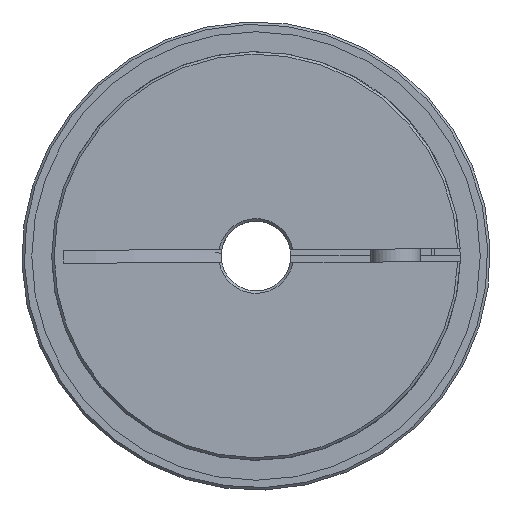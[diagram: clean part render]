
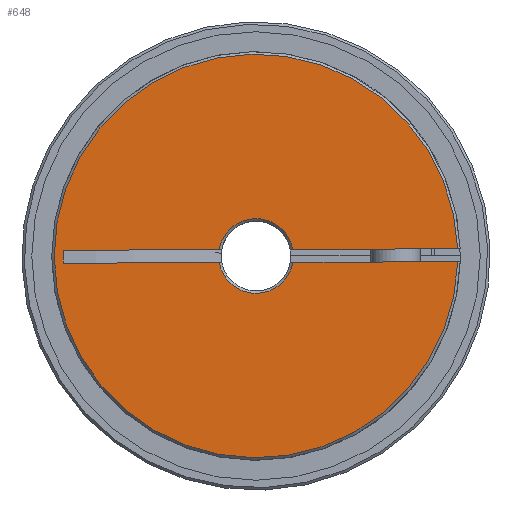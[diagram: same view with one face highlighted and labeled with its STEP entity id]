
A CAD part, left-side view. The second image highlights one B-rep face of the part: STEP entity #648.
In plain terms, the highlighted planar face has unit normal (-1, 0, 0).
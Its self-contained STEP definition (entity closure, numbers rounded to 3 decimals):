
#648 = ADVANCED_FACE( 'NONE', ( #1356 ), #1357, .F. );
#1356 = FACE_OUTER_BOUND( '', #2251, .T. );
#1357 = PLANE( '', #2252 );
#2251 = EDGE_LOOP( '', ( #3426, #3427, #3428, #3429, #3430, #3431, #3432, #3433 ) );
#2252 = AXIS2_PLACEMENT_3D( '', #3434, #3435, #3436 );
#3426 = ORIENTED_EDGE( '', *, *, #4666, .T. );
#3427 = ORIENTED_EDGE( '', *, *, #4703, .T. );
#3428 = ORIENTED_EDGE( '', *, *, #4704, .T. );
#3429 = ORIENTED_EDGE( '', *, *, #4705, .T. );
#3430 = ORIENTED_EDGE( '', *, *, #4706, .F. );
#3431 = ORIENTED_EDGE( '', *, *, #4576, .T. );
#3432 = ORIENTED_EDGE( '', *, *, #4707, .F. );
#3433 = ORIENTED_EDGE( '', *, *, #4708, .T. );
#3434 = CARTESIAN_POINT( '', ( 0., 7., 0. ) );
#3435 = DIRECTION( '', ( 1., 0., 0. ) );
#3436 = DIRECTION( '', ( 0., 1., 0. ) );
#4576 = EDGE_CURVE( 'NONE', #5273, #5270, #5274, .T. );
#4666 = EDGE_CURVE( 'NONE', #5416, #5414, #5417, .T. );
#4703 = EDGE_CURVE( 'NONE', #5414, #5466, #5467, .T. );
#4704 = EDGE_CURVE( 'NONE', #5466, #5468, #5469, .T. );
#4705 = EDGE_CURVE( 'NONE', #5468, #5470, #5471, .F. );
#4706 = EDGE_CURVE( 'NONE', #5273, #5470, #5472, .F. );
#4707 = EDGE_CURVE( 'NONE', #5473, #5270, #5474, .F. );
#4708 = EDGE_CURVE( 'NONE', #5473, #5416, #5475, .T. );
#5270 = VERTEX_POINT( 'NONE', #6498 );
#5273 = VERTEX_POINT( 'NONE', #6504 );
#5274 = CIRCLE( '', #6505, 7.5 );
#5414 = VERTEX_POINT( 'NONE', #6738 );
#5416 = VERTEX_POINT( 'NONE', #6743 );
#5417 = LINE( '', #6744, #6745 );
#5466 = VERTEX_POINT( 'NONE', #6805 );
#5467 = CIRCLE( '', #6806, 7.5 );
#5468 = VERTEX_POINT( 'NONE', #6807 );
#5469 = LINE( '', #6808, #6809 );
#5470 = VERTEX_POINT( 'NONE', #6810 );
#5471 = CIRCLE( '', #6811, 40.5 );
#5472 = LINE( '', #6812, #6813 );
#5473 = VERTEX_POINT( 'NONE', #6814 );
#5474 = LINE( '', #6815, #6816 );
#5475 = LINE( '', #6817, #6818 );
#6498 = CARTESIAN_POINT( '', ( 0., -1.3, -7.386 ) );
#6504 = CARTESIAN_POINT( '', ( 0., -1.3, 7.386 ) );
#6505 = AXIS2_PLACEMENT_3D( '', #7620, #7621, #7622 );
#6738 = CARTESIAN_POINT( '', ( 0., 1.3, -7.386 ) );
#6743 = CARTESIAN_POINT( '', ( 0., 1.3, -38.697 ) );
#6744 = CARTESIAN_POINT( '', ( 0., 1.3, 0. ) );
#6745 = VECTOR( '', #7767, 1000. );
#6805 = CARTESIAN_POINT( '', ( 0., 1.3, 7.386 ) );
#6806 = AXIS2_PLACEMENT_3D( '', #7818, #7819, #7820 );
#6807 = CARTESIAN_POINT( '', ( 0., 1.3, 40.479 ) );
#6808 = CARTESIAN_POINT( '', ( 0., 1.3, 0. ) );
#6809 = VECTOR( '', #7821, 1000. );
#6810 = CARTESIAN_POINT( '', ( 0., -1.3, 40.479 ) );
#6811 = AXIS2_PLACEMENT_3D( '', #7822, #7823, #7824 );
#6812 = CARTESIAN_POINT( '', ( 0., -1.3, 11. ) );
#6813 = VECTOR( '', #7825, 1000. );
#6814 = CARTESIAN_POINT( '', ( 0., -1.3, -38.697 ) );
#6815 = CARTESIAN_POINT( '', ( 0., -1.3, 11. ) );
#6816 = VECTOR( '', #7826, 1000. );
#6817 = CARTESIAN_POINT( '', ( 0., -1.3, -38.697 ) );
#6818 = VECTOR( '', #7827, 1000. );
#7620 = CARTESIAN_POINT( '', ( 0., 0., 0. ) );
#7621 = DIRECTION( '', ( 1., 0., 0. ) );
#7622 = DIRECTION( '', ( 0., 0., -1. ) );
#7767 = DIRECTION( '', ( 0., 0., 1. ) );
#7818 = CARTESIAN_POINT( '', ( 0., 0., 0. ) );
#7819 = DIRECTION( '', ( 1., 0., 0. ) );
#7820 = DIRECTION( '', ( 0., 0., -1. ) );
#7821 = DIRECTION( '', ( 0., 0., 1. ) );
#7822 = CARTESIAN_POINT( '', ( 0., 0., 0. ) );
#7823 = DIRECTION( '', ( 1., 0., 0. ) );
#7824 = DIRECTION( '', ( 0., 0., -1. ) );
#7825 = DIRECTION( '', ( 0., 0., -1. ) );
#7826 = DIRECTION( '', ( 0., 0., -1. ) );
#7827 = DIRECTION( '', ( 0., 1., 0. ) );
